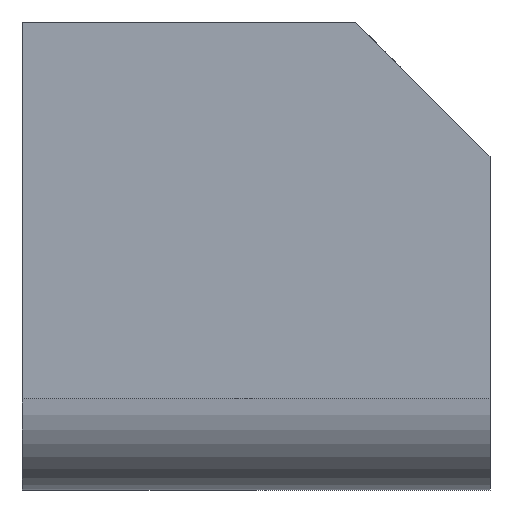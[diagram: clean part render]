
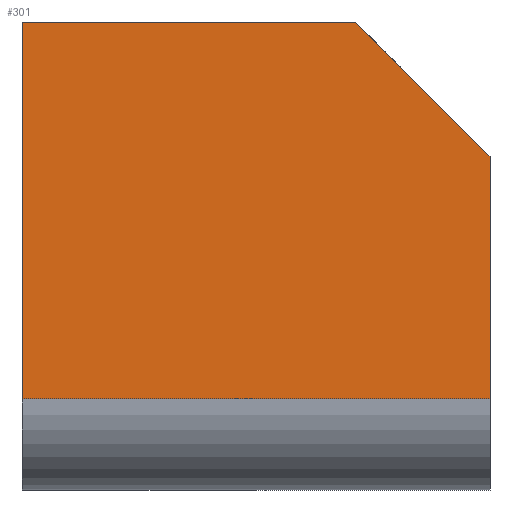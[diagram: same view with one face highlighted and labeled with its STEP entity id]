
A CAD part, left-side view. The second image highlights one B-rep face of the part: STEP entity #301.
In plain terms, the highlighted planar face has unit normal (-1, 0, 0).
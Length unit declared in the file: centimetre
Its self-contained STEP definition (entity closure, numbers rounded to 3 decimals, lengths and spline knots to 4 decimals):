
#8 = ORIENTED_EDGE ( 'NONE', *, *, #551, .T. ) ;
#26 = VERTEX_POINT ( 'NONE', #303 ) ;
#28 = CARTESIAN_POINT ( 'NONE',  ( 0., 1000., 194.8257 ) ) ;
#90 = VERTEX_POINT ( 'NONE', #826 ) ;
#98 = LINE ( 'NONE', #173, #103 ) ;
#103 = VECTOR ( 'NONE', #874, 100. ) ;
#136 = PLANE ( 'NONE',  #512 ) ;
#151 = VERTEX_POINT ( 'NONE', #518 ) ;
#173 = CARTESIAN_POINT ( 'NONE',  ( 0., 1000., 1000. ) ) ;
#209 = CARTESIAN_POINT ( 'NONE',  ( 0., 0., 711.6372 ) ) ;
#229 = VERTEX_POINT ( 'NONE', #462 ) ;
#242 = LINE ( 'NONE', #490, #830 ) ;
#298 = DIRECTION ( 'NONE',  ( 1., 0., 0. ) ) ;
#300 = VERTEX_POINT ( 'NONE', #209 ) ;
#301 = ADVANCED_FACE ( 'NONE', ( #692 ), #136, .F. ) ;
#303 = CARTESIAN_POINT ( 'NONE',  ( 0., 1000., 1000. ) ) ;
#307 = ORIENTED_EDGE ( 'NONE', *, *, #309, .F. ) ;
#309 = EDGE_CURVE ( 'NONE', #26, #151, #98, .T. ) ;
#320 = ORIENTED_EDGE ( 'NONE', *, *, #879, .T. ) ;
#329 = EDGE_CURVE ( 'NONE', #300, #90, #242, .T. ) ;
#351 = CARTESIAN_POINT ( 'NONE',  ( 0., 288.3628, 1000. ) ) ;
#393 = CARTESIAN_POINT ( 'NONE',  ( 0., 1000., 1000. ) ) ;
#400 = DIRECTION ( 'NONE',  ( 0., 0., -1. ) ) ;
#428 = LINE ( 'NONE', #28, #878 ) ;
#429 = ORIENTED_EDGE ( 'NONE', *, *, #329, .F. ) ;
#432 = LINE ( 'NONE', #351, #523 ) ;
#462 = CARTESIAN_POINT ( 'NONE',  ( 0., 1000., 194.8257 ) ) ;
#490 = CARTESIAN_POINT ( 'NONE',  ( 0., 0., 1000. ) ) ;
#496 = VECTOR ( 'NONE', #400, 100. ) ;
#512 = AXIS2_PLACEMENT_3D ( 'NONE', #1005, #298, #928 ) ;
#514 = EDGE_LOOP ( 'NONE', ( #429, #8, #307, #651, #320 ) ) ;
#518 = CARTESIAN_POINT ( 'NONE',  ( 0., 288.3628, 1000. ) ) ;
#523 = VECTOR ( 'NONE', #978, 100. ) ;
#551 = EDGE_CURVE ( 'NONE', #300, #151, #432, .T. ) ;
#628 = LINE ( 'NONE', #393, #496 ) ;
#651 = ORIENTED_EDGE ( 'NONE', *, *, #751, .T. ) ;
#692 = FACE_OUTER_BOUND ( 'NONE', #514, .T. ) ;
#751 = EDGE_CURVE ( 'NONE', #26, #229, #628, .T. ) ;
#826 = CARTESIAN_POINT ( 'NONE',  ( 0., 0., 194.8257 ) ) ;
#830 = VECTOR ( 'NONE', #863, 100. ) ;
#863 = DIRECTION ( 'NONE',  ( 0., 0., -1. ) ) ;
#874 = DIRECTION ( 'NONE',  ( 0., -1., 0. ) ) ;
#878 = VECTOR ( 'NONE', #883, 100. ) ;
#879 = EDGE_CURVE ( 'NONE', #229, #90, #428, .T. ) ;
#883 = DIRECTION ( 'NONE',  ( 0., -1., 0. ) ) ;
#928 = DIRECTION ( 'NONE',  ( 0., 0., -1. ) ) ;
#978 = DIRECTION ( 'NONE',  ( 0., 0.707, 0.707 ) ) ;
#1005 = CARTESIAN_POINT ( 'NONE',  ( 0., 1000., 1000. ) ) ;
